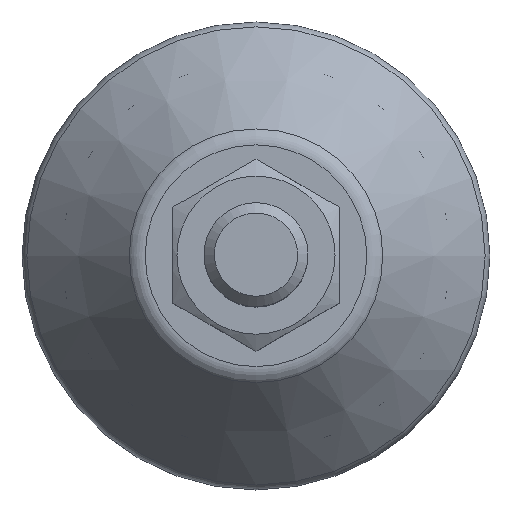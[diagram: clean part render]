
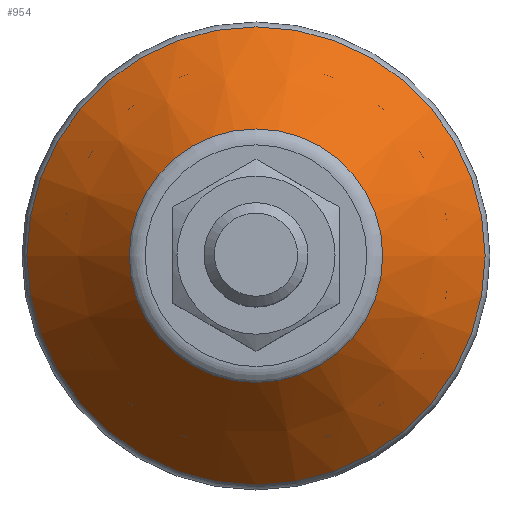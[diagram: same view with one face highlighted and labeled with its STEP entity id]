
A CAD part, top view. The second image highlights one B-rep face of the part: STEP entity #954.
In plain terms, the highlighted conical face has half-angle 40 degrees and reference radius 17.112 mm.
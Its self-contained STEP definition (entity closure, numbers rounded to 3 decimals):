
#954=ADVANCED_FACE('',(#2020,#2022),#2024,.T.);
#2020=FACE_BOUND('',#2021,.T.);
#2021=EDGE_LOOP('',(#3005,#3006));
#2022=FACE_BOUND('',#2023,.T.);
#2023=EDGE_LOOP('',(#3007,#3008));
#2024=CONICAL_SURFACE('',#2025,17.112,0.698);
#2025=AXIS2_PLACEMENT_3D('',#2026,#2027,#2028);
#2026=CARTESIAN_POINT('',(0.,0.,11.422));
#2027=DIRECTION('',(0.,0.,-1.));
#2028=DIRECTION('',(1.,0.,0.));
#3005=ORIENTED_EDGE('',*,*,#3515,.T.);
#3006=ORIENTED_EDGE('',*,*,#3514,.T.);
#3007=ORIENTED_EDGE('',*,*,#3518,.F.);
#3008=ORIENTED_EDGE('',*,*,#3519,.F.);
#3514=EDGE_CURVE('',#4052,#4053,#4054,.T.);
#3515=EDGE_CURVE('',#4053,#4052,#4055,.T.);
#3518=EDGE_CURVE('',#4060,#4061,#4062,.T.);
#3519=EDGE_CURVE('',#4061,#4060,#4063,.T.);
#4052=VERTEX_POINT('',#6498);
#4053=VERTEX_POINT('',#6499);
#4054=CIRCLE('',#6500,22.032);
#4055=CIRCLE('',#6504,22.032);
#4060=VERTEX_POINT('',#6518);
#4061=VERTEX_POINT('',#6519);
#4062=CIRCLE('',#6520,12.191);
#4063=CIRCLE('',#6524,12.191);
#6498=CARTESIAN_POINT('',(-22.032,0.,5.558));
#6499=CARTESIAN_POINT('',(22.032,0.,5.558));
#6500=AXIS2_PLACEMENT_3D('',#6501,#6502,#6503);
#6501=CARTESIAN_POINT('',(0.,0.,5.558));
#6502=DIRECTION('',(0.,0.,1.));
#6503=DIRECTION('',(-1.,0.,0.));
#6504=AXIS2_PLACEMENT_3D('',#6505,#6506,#6507);
#6505=CARTESIAN_POINT('',(0.,0.,5.558));
#6506=DIRECTION('',(0.,0.,1.));
#6507=DIRECTION('',(1.,0.,0.));
#6518=CARTESIAN_POINT('',(-12.191,0.,17.286));
#6519=CARTESIAN_POINT('',(12.191,0.,17.286));
#6520=AXIS2_PLACEMENT_3D('',#6521,#6522,#6523);
#6521=CARTESIAN_POINT('',(0.,0.,17.286));
#6522=DIRECTION('',(0.,0.,1.));
#6523=DIRECTION('',(-1.,0.,0.));
#6524=AXIS2_PLACEMENT_3D('',#6525,#6526,#6527);
#6525=CARTESIAN_POINT('',(0.,0.,17.286));
#6526=DIRECTION('',(0.,0.,1.));
#6527=DIRECTION('',(1.,0.,0.));
